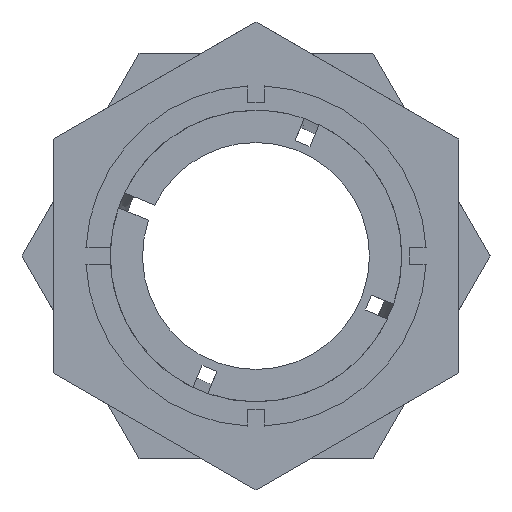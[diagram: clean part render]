
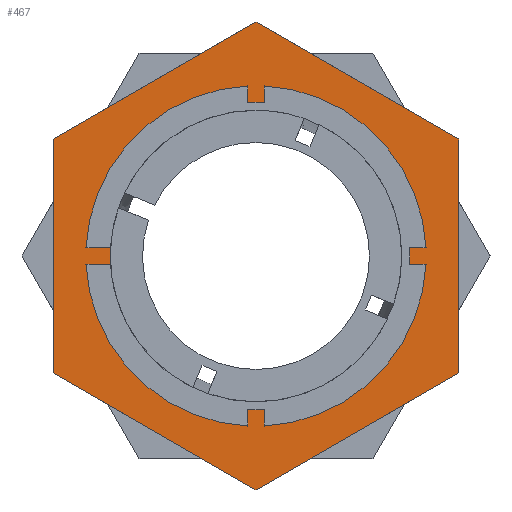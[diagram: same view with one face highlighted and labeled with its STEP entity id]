
A CAD part, left-side view. The second image highlights one B-rep face of the part: STEP entity #467.
In plain terms, the highlighted planar face has unit normal (-1, 0, 0).
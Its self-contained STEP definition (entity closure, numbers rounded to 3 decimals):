
#7 = VERTEX_POINT ( 'NONE', #2438 ) ;
#9 = VERTEX_POINT ( 'NONE', #2435 ) ;
#13 = VERTEX_POINT ( 'NONE', #2426 ) ;
#16 = VERTEX_POINT ( 'NONE', #2415 ) ;
#19 = VERTEX_POINT ( 'NONE', #2407 ) ;
#24 = VERTEX_POINT ( 'NONE', #2397 ) ;
#27 = VERTEX_POINT ( 'NONE', #2473 ) ;
#39 = VERTEX_POINT ( 'NONE', #2455 ) ;
#147 = AXIS2_PLACEMENT_3D ( 'NONE', #787, #788, #789 ) ;
#161 = AXIS2_PLACEMENT_3D ( 'NONE', #872, #891, #892 ) ;
#182 = AXIS2_PLACEMENT_3D ( 'NONE', #1046, #1049, #1050 ) ;
#309 = EDGE_CURVE ( 'NONE', #24, #39, #2070, .T. ) ;
#318 = EDGE_CURVE ( 'NONE', #7, #9, #2089, .T. ) ;
#361 = EDGE_CURVE ( 'NONE', #13, #16, #2132, .T. ) ;
#363 = EDGE_CURVE ( 'NONE', #39, #19, #2136, .T. ) ;
#364 = EDGE_CURVE ( 'NONE', #16, #24, #2138, .T. ) ;
#368 = EDGE_CURVE ( 'NONE', #19, #27, #2144, .T. ) ;
#369 = EDGE_CURVE ( 'NONE', #9, #7, #2147, .T. ) ;
#370 = EDGE_CURVE ( 'NONE', #27, #13, #2131, .T. ) ;
#467 = ADVANCED_FACE ( 'NONE', ( #2203, #2209 ), #1047, .F. ) ;
#769 = CARTESIAN_POINT ( 'NONE',  ( 23.52, 0., -28.868 ) ) ;
#770 = DIRECTION ( 'NONE',  ( 0., -0.866, -0.5 ) ) ;
#787 = CARTESIAN_POINT ( 'NONE',  ( 23.52, 0., 0. ) ) ;
#788 = DIRECTION ( 'NONE',  ( -1., 0., 0. ) ) ;
#789 = DIRECTION ( 'NONE',  ( 0., 0., 1. ) ) ;
#865 = CARTESIAN_POINT ( 'NONE',  ( 23.52, 25., 14.434 ) ) ;
#872 = CARTESIAN_POINT ( 'NONE',  ( 23.52, 0., 0. ) ) ;
#873 = DIRECTION ( 'NONE',  ( 0., 0.866, -0.5 ) ) ;
#876 = CARTESIAN_POINT ( 'NONE',  ( 23.52, -25., -14.434 ) ) ;
#877 = DIRECTION ( 'NONE',  ( 0., -0.866, 0.5 ) ) ;
#878 = CARTESIAN_POINT ( 'NONE',  ( 23.52, 25., -14.434 ) ) ;
#879 = DIRECTION ( 'NONE',  ( 0., 0., -1. ) ) ;
#889 = CARTESIAN_POINT ( 'NONE',  ( 23.52, -25., 14.434 ) ) ;
#890 = DIRECTION ( 'NONE',  ( 0., 0., 1. ) ) ;
#891 = DIRECTION ( 'NONE',  ( -1., 0., 0. ) ) ;
#892 = DIRECTION ( 'NONE',  ( 0., 0., 1. ) ) ;
#893 = CARTESIAN_POINT ( 'NONE',  ( 23.52, 0., 28.868 ) ) ;
#894 = DIRECTION ( 'NONE',  ( 0., 0.866, 0.5 ) ) ;
#1046 = CARTESIAN_POINT ( 'NONE',  ( 23.52, 50., 0. ) ) ;
#1047 = PLANE ( 'NONE',  #182 ) ;
#1049 = DIRECTION ( 'NONE',  ( 1., 0., 0. ) ) ;
#1050 = DIRECTION ( 'NONE',  ( 0., 0., -1. ) ) ;
#1422 = EDGE_LOOP ( 'NONE', ( #1809, #1810, #1811, #1812, #1813, #1814 ) ) ;
#1466 = EDGE_LOOP ( 'NONE', ( #1807, #1808 ) ) ;
#1807 = ORIENTED_EDGE ( 'NONE', *, *, #369, .F. ) ;
#1808 = ORIENTED_EDGE ( 'NONE', *, *, #318, .F. ) ;
#1809 = ORIENTED_EDGE ( 'NONE', *, *, #361, .T. ) ;
#1810 = ORIENTED_EDGE ( 'NONE', *, *, #364, .T. ) ;
#1811 = ORIENTED_EDGE ( 'NONE', *, *, #309, .T. ) ;
#1812 = ORIENTED_EDGE ( 'NONE', *, *, #363, .T. ) ;
#1813 = ORIENTED_EDGE ( 'NONE', *, *, #368, .T. ) ;
#1814 = ORIENTED_EDGE ( 'NONE', *, *, #370, .T. ) ;
#2070 = LINE ( 'NONE', #769, #2071 ) ;
#2071 = VECTOR ( 'NONE', #770, 1000. ) ;
#2089 = CIRCLE ( 'NONE', #147, 17.001 ) ;
#2131 = LINE ( 'NONE', #893, #2142 ) ;
#2132 = LINE ( 'NONE', #865, #2133 ) ;
#2133 = VECTOR ( 'NONE', #873, 1000. ) ;
#2136 = LINE ( 'NONE', #876, #2137 ) ;
#2137 = VECTOR ( 'NONE', #877, 1000. ) ;
#2138 = LINE ( 'NONE', #878, #2139 ) ;
#2139 = VECTOR ( 'NONE', #879, 1000. ) ;
#2142 = VECTOR ( 'NONE', #894, 1000. ) ;
#2144 = LINE ( 'NONE', #889, #2145 ) ;
#2145 = VECTOR ( 'NONE', #890, 1000. ) ;
#2147 = CIRCLE ( 'NONE', #161, 17.001 ) ;
#2203 = FACE_BOUND ( 'NONE', #1466, .T. ) ;
#2209 = FACE_OUTER_BOUND ( 'NONE', #1422, .T. ) ;
#2397 = CARTESIAN_POINT ( 'NONE',  ( 23.52, 25., -14.434 ) ) ;
#2407 = CARTESIAN_POINT ( 'NONE',  ( 23.52, -25., -14.434 ) ) ;
#2415 = CARTESIAN_POINT ( 'NONE',  ( 23.52, 25., 14.434 ) ) ;
#2426 = CARTESIAN_POINT ( 'NONE',  ( 23.52, 0., 28.868 ) ) ;
#2435 = CARTESIAN_POINT ( 'NONE',  ( 23.52, 0., 17.001 ) ) ;
#2438 = CARTESIAN_POINT ( 'NONE',  ( 23.52, 0., -17.001 ) ) ;
#2455 = CARTESIAN_POINT ( 'NONE',  ( 23.52, 0., -28.868 ) ) ;
#2473 = CARTESIAN_POINT ( 'NONE',  ( 23.52, -25., 14.434 ) ) ;
